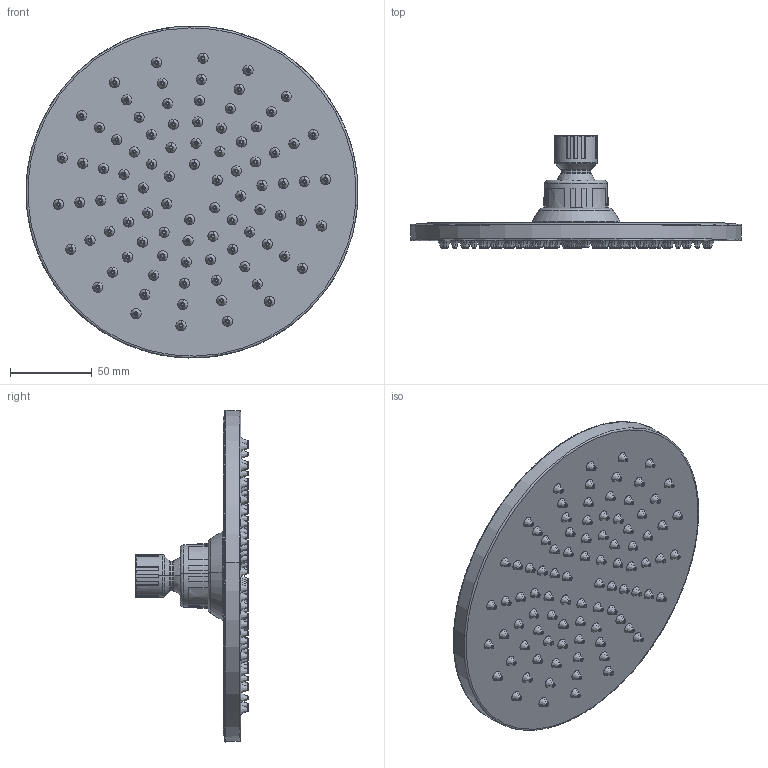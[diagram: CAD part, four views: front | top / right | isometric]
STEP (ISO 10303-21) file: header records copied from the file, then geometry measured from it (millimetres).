
FILE_DESCRIPTION (( 'STEP AP214' ), '1' );
FILE_NAME ('Hi-976A.STEP', '2021-07-07T01:38:36', ( '' ), ( '' ), 'SwSTEP 2.0', 'SolidWorks 2020', '' );
FILE_SCHEMA (( 'AUTOMOTIVE_DESIGN' ));
Length unit declared in the file: millimetre
Products named in the file (10): 976A_MB_923_5; 803A_QS_923_ASM_5; 976A_SB_923_5; 976A_SBHJZJ_923_ASM_5; 803A_QTLS__923_5; 803A_QS_923_5; Hi-976A; 976A_MJDZJ_923_ASM_5; 976A_JD_923_5; 990A_QSG_923_5
Assembly tree (98 placements, depth 4):
  Hi-976A
    976A_SBHJZJ_923_ASM_5
      976A_MJDZJ_923_ASM_5
        976A_MB_923_5
        976A_JD_923_5  x90
      976A_SB_923_5
    990A_QSG_923_5
    803A_QS_923_ASM_5
      803A_QS_923_5
      803A_QTLS__923_5
Bounding box: 202.94 x 68.76 x 203.05 mm (x, y, z)
Volume: 472815.6 mm3; surface area: 168219.6 mm2
Topology: 95 solids, 95 shells, 1194 faces, 2638 edges, 1656 vertices
Faces by surface type: plane 372, torus 278, bspline 271, cylinder 194, cone 79
Entity records: 32521 total; most frequent: CARTESIAN_POINT 18474, ORIENTED_EDGE 2950, DIRECTION 2635, EDGE_CURVE 1475, AXIS2_PLACEMENT_3D 1058, VERTEX_POINT 944, EDGE_LOOP 621, FACE_OUTER_BOUND 571
